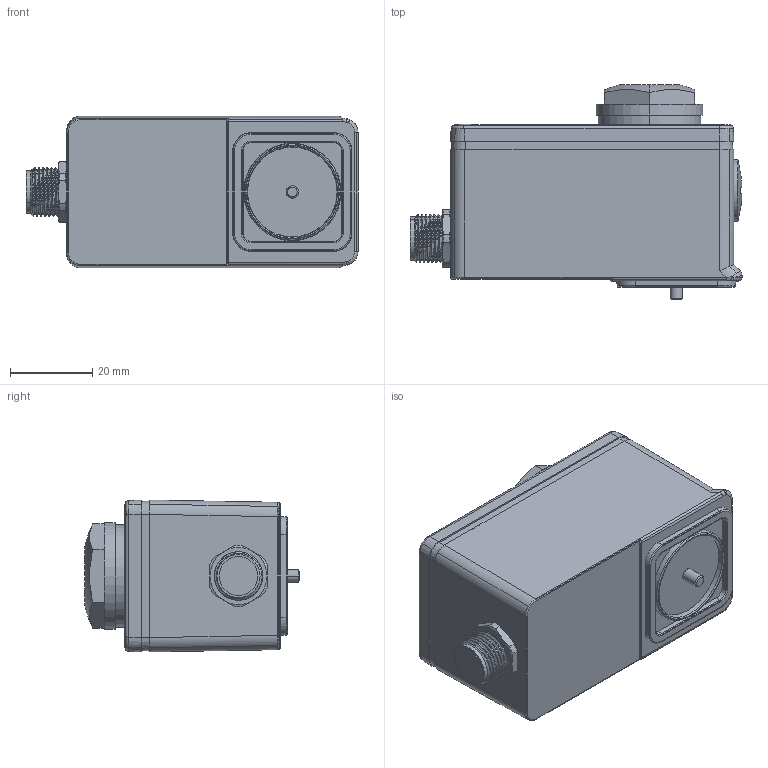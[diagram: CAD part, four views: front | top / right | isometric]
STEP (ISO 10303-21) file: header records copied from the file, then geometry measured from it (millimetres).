
FILE_DESCRIPTION (( 'STEP AP214' ), '1' );
FILE_NAME ('DB 1_13_68.STEP', '2025-05-02T13:00:55', ( '' ), ( '' ), 'SwSTEP 2.0', 'SolidWorks 2024', '' );
FILE_SCHEMA (( 'AUTOMOTIVE_DESIGN' ));
Length unit declared in the file: millimetre
Products named in the file (1): DB 1_13_68
Bounding box: 80.86 x 52.34 x 37 mm (x, y, z)
Volume: 100461.4 mm3; surface area: 15125.8 mm2
Topology: 1 solids, 3 shells, 820 faces, 1797 edges, 993 vertices
Faces by surface type: plane 461, cylinder 202, cone 76, bspline 41, torus 39, sphere 1
Entity records: 26966 total; most frequent: CARTESIAN_POINT 10037, ORIENTED_EDGE 3576, DIRECTION 3377, EDGE_CURVE 1788, AXIS2_PLACEMENT_3D 1231, VERTEX_POINT 993, VECTOR 915, LINE 915
